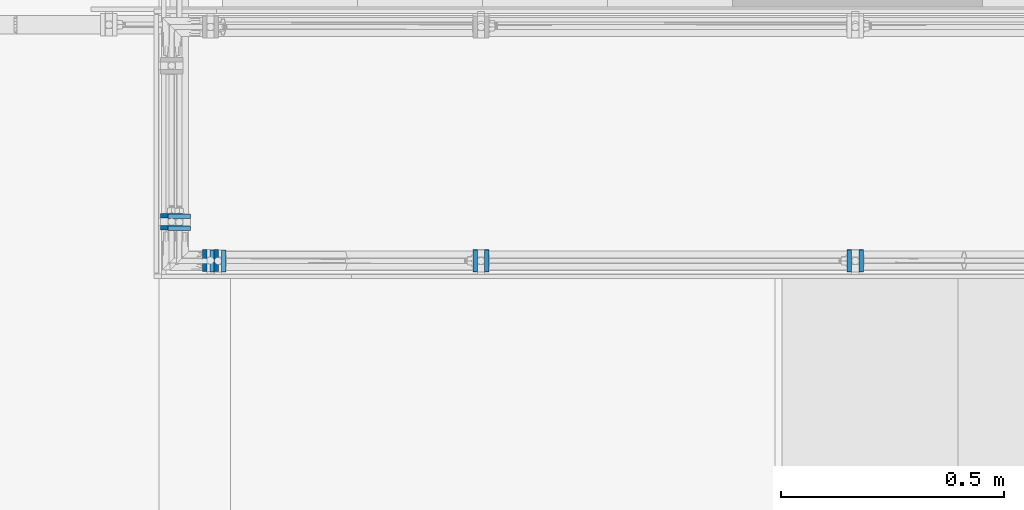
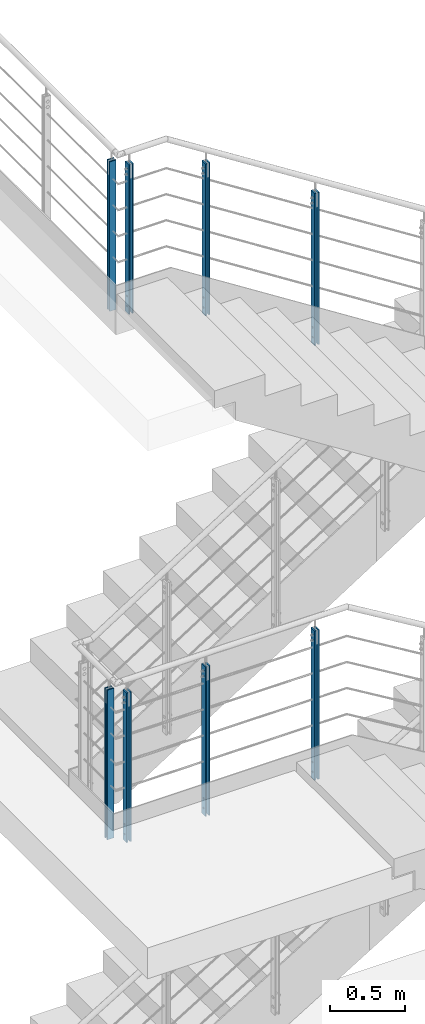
# One storey, part 1 of 98: 16 columns, 32 openings.
"""IFC2X3 building model written with IfcOpenShell, lengths in millimetres."""

from ifc_helpers import new_model, entity, si_unit, converted_unit, frame, frame_2d, origin, origin_with_axes, origin_2d, place, context, project, spatial, rectangle, circle, extrude, material, element, save


model = new_model("IFC2X3")

# Units and contexts
model_context = context("Model", 3, precision=1e-09, world=origin_with_axes())
ifc_project = project(units=[si_unit("LENGTHUNIT", "METRE", prefix="MILLI"), si_unit("AREAUNIT", "SQUARE_METRE"), si_unit("VOLUMEUNIT", "CUBIC_METRE"), converted_unit("PLANEANGLEUNIT", "DEGREE", entity("IfcPlaneAngleMeasure", 0.01745329), si_unit("PLANEANGLEUNIT", "RADIAN"), dimensions=[0, 0, 0, 0, 0, 0, 0])], contexts=[model_context])

# Site, building, storey
site_placement = place(None, origin_with_axes())
site = spatial("IfcSite", under=ifc_project, at=site_placement, Name="Maybachstra?e 2, 71563 Affalterbach", CompositionType="ELEMENT")
building_placement = place(site_placement, origin_with_axes())
building = spatial("IfcBuilding", under=site, at=building_placement, Name="Struktur 1", CompositionType="ELEMENT")
storey_placement = place(building_placement, origin_with_axes())
storey = spatial("IfcBuildingStorey", under=building, at=storey_placement, Name="Default Storey", CompositionType="ELEMENT", Elevation=0.0)

# Column, openings
ifc_material = material(Name="S235JR")
column_1_placement = place(None, frame((8001.779157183, -570.0, 8483.11981424), z_axis=(0.0, 0.0, 1.0), x_axis=(-1.0, 0.0, 0.0)))
column_1 = element("IfcColumn", 1, at=column_1_placement, inside=storey, material=ifc_material, Name="-", ObjectType="-", context=model_context, shape_type="SweptSolid", body=[
    extrude(rectangle(XDim=10.0, YDim=50.0, at=origin_2d()), origin(), (0.0, 0.0, -1.0), 1237.6),
])
opening_1_placement = place(column_1_placement, frame((5.5, 0.0, -1142.6), z_axis=(-1.0, 0.0, 0.0), x_axis=(0.0, -1.0, 0.0)))
element("IfcOpeningElement", 2, at=opening_1_placement, cuts=column_1, ObjectType="Opening", context=model_context, shape_type="SweptSolid", body=[
    extrude(circle(Radius=7.001, at=frame_2d((0.0, 40.0), x_axis=(1.0, 0.0))), origin(), (0.0, 0.0, 1.0), 11.0),
])
opening_2_placement = place(column_1_placement, frame((5.5, 0.0, -1142.6), z_axis=(-1.0, 0.0, 0.0), x_axis=(0.0, -1.0, 0.0)))
element("IfcOpeningElement", 3, at=opening_2_placement, cuts=column_1, ObjectType="Opening", context=model_context, shape_type="SweptSolid", body=[
    extrude(circle(Radius=7.001, at=frame_2d((0.0, -40.0), x_axis=(1.0, 0.0))), origin(), (0.0, 0.0, 1.0), 11.0),
])
opening_3_placement = place(column_1_placement, frame((5.5, 0.0, -67.0), z_axis=(-1.0, 0.0, 0.0), x_axis=(0.0, -1.0, 0.0)))
element("IfcOpeningElement", 4, at=opening_3_placement, cuts=column_1, ObjectType="Opening", context=model_context, shape_type="SweptSolid", body=[
    extrude(circle(Radius=7.001, at=frame_2d((0.0, 22.0), x_axis=(1.0, 0.0))), origin(), (0.0, 0.0, 1.0), 11.0),
])
opening_4_placement = place(column_1_placement, frame((5.5, 0.0, -67.0), z_axis=(-1.0, 0.0, 0.0), x_axis=(0.0, -1.0, 0.0)))
element("IfcOpeningElement", 5, at=opening_4_placement, cuts=column_1, ObjectType="Opening", context=model_context, shape_type="SweptSolid", body=[
    extrude(circle(Radius=7.001, at=frame_2d((0.0, -22.0), x_axis=(1.0, 0.0))), origin(), (0.0, 0.0, 1.0), 11.0),
])

# Column
column_2_placement = place(None, frame((8028.279157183, -570.0, 8483.11981424), z_axis=(0.0, 0.0, 1.0), x_axis=(-1.0, 0.0, 0.0)))
element("IfcColumn", 6, at=column_2_placement, inside=storey, material=ifc_material, Name="Gel?nder", ObjectType="Gel?nder", context=model_context, shape_type="SweptSolid", body=[
    extrude(rectangle(XDim=10.0, YDim=50.0, at=origin_2d()), origin(), (0.0, 0.0, -1.0), 1237.6),
])

# Column, openings
column_3_placement = place(None, frame((8841.779157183, -569.0, 4387.6), z_axis=(0.0, 0.0, 1.0), x_axis=(-1.0, 0.0, 0.0)))
column_3 = element("IfcColumn", 7, at=column_3_placement, inside=storey, material=ifc_material, Name="-", ObjectType="-", context=model_context, shape_type="SweptSolid", body=[
    extrude(rectangle(XDim=10.0, YDim=50.0, at=origin_2d()), origin(), (0.0, 0.0, -1.0), 1217.6),
])
opening_5_placement = place(column_3_placement, frame((5.5, 0.0, -1122.6), z_axis=(-1.0, 0.0, 0.0), x_axis=(0.0, -1.0, 0.0)))
element("IfcOpeningElement", 8, at=opening_5_placement, cuts=column_3, ObjectType="Opening", context=model_context, shape_type="SweptSolid", body=[
    extrude(circle(Radius=7.001, at=frame_2d((0.0, 40.0), x_axis=(1.0, 0.0))), origin(), (0.0, 0.0, 1.0), 11.0),
])
opening_6_placement = place(column_3_placement, frame((5.5, 0.0, -1122.6), z_axis=(-1.0, 0.0, 0.0), x_axis=(0.0, -1.0, 0.0)))
element("IfcOpeningElement", 9, at=opening_6_placement, cuts=column_3, ObjectType="Opening", context=model_context, shape_type="SweptSolid", body=[
    extrude(circle(Radius=7.001, at=frame_2d((0.0, -40.0), x_axis=(1.0, 0.0))), origin(), (0.0, 0.0, 1.0), 11.0),
])
opening_7_placement = place(column_3_placement, frame((5.5, 0.0, -67.0), z_axis=(-1.0, 0.0, 0.0), x_axis=(0.0, -1.0, 0.0)))
element("IfcOpeningElement", 10, at=opening_7_placement, cuts=column_3, ObjectType="Opening", context=model_context, shape_type="SweptSolid", body=[
    extrude(circle(Radius=7.001, at=frame_2d((0.0, 22.0), x_axis=(1.0, 0.0))), origin(), (0.0, 0.0, 1.0), 11.0),
])
opening_8_placement = place(column_3_placement, frame((5.5, 0.0, -67.0), z_axis=(-1.0, 0.0, 0.0), x_axis=(0.0, -1.0, 0.0)))
element("IfcOpeningElement", 11, at=opening_8_placement, cuts=column_3, ObjectType="Opening", context=model_context, shape_type="SweptSolid", body=[
    extrude(circle(Radius=7.001, at=frame_2d((0.0, -22.0), x_axis=(1.0, 0.0))), origin(), (0.0, 0.0, 1.0), 11.0),
])

# Columns
for number, where, z_axis, x_axis in (
    (12, (8868.279157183, -569.0, 4387.6), (0.0, 0.0, 1.0), (-1.0, 0.0, 0.0)),
    (13, (8028.279157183, -569.0, 4387.6), (0.0, 0.0, 1.0), (-1.0, 0.0, 0.0)),
):
    element("IfcColumn", number, at=place(None, frame(where, z_axis=z_axis, x_axis=x_axis)), inside=storey, material=ifc_material, Name="Gel?nder", ObjectType="Gel?nder", context=model_context, shape_type="SweptSolid", body=[
        extrude(rectangle(XDim=10.0, YDim=50.0, at=origin_2d()), origin(), (0.0, 0.0, -1.0), 1217.6),
    ])

# Column, openings
column_4_placement = place(None, frame((8001.779157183, -569.0, 4387.6), z_axis=(0.0, 0.0, 1.0), x_axis=(-1.0, 0.0, 0.0)))
column_4 = element("IfcColumn", 14, at=column_4_placement, inside=storey, material=ifc_material, Name="-", ObjectType="-", context=model_context, shape_type="SweptSolid", body=[
    extrude(rectangle(XDim=10.0, YDim=50.0, at=origin_2d()), origin(), (0.0, 0.0, -1.0), 1217.6),
])
opening_9_placement = place(column_4_placement, frame((5.5, 0.0, -1122.6), z_axis=(-1.0, 0.0, 0.0), x_axis=(0.0, -1.0, 0.0)))
element("IfcOpeningElement", 15, at=opening_9_placement, cuts=column_4, ObjectType="Opening", context=model_context, shape_type="SweptSolid", body=[
    extrude(circle(Radius=7.001, at=frame_2d((0.0, 40.0), x_axis=(1.0, 0.0))), origin(), (0.0, 0.0, 1.0), 11.0),
])
opening_10_placement = place(column_4_placement, frame((5.5, 0.0, -1122.6), z_axis=(-1.0, 0.0, 0.0), x_axis=(0.0, -1.0, 0.0)))
element("IfcOpeningElement", 16, at=opening_10_placement, cuts=column_4, ObjectType="Opening", context=model_context, shape_type="SweptSolid", body=[
    extrude(circle(Radius=7.001, at=frame_2d((0.0, -40.0), x_axis=(1.0, 0.0))), origin(), (0.0, 0.0, 1.0), 11.0),
])
opening_11_placement = place(column_4_placement, frame((5.5, 0.0, -67.0), z_axis=(-1.0, 0.0, 0.0), x_axis=(0.0, -1.0, 0.0)))
element("IfcOpeningElement", 17, at=opening_11_placement, cuts=column_4, ObjectType="Opening", context=model_context, shape_type="SweptSolid", body=[
    extrude(circle(Radius=7.001, at=frame_2d((0.0, 22.0), x_axis=(1.0, 0.0))), origin(), (0.0, 0.0, 1.0), 11.0),
])
opening_12_placement = place(column_4_placement, frame((5.5, 0.0, -67.0), z_axis=(-1.0, 0.0, 0.0), x_axis=(0.0, -1.0, 0.0)))
element("IfcOpeningElement", 18, at=opening_12_placement, cuts=column_4, ObjectType="Opening", context=model_context, shape_type="SweptSolid", body=[
    extrude(circle(Radius=7.001, at=frame_2d((0.0, -22.0), x_axis=(1.0, 0.0))), origin(), (0.0, 0.0, 1.0), 11.0),
])

# Column
column_5_placement = place(None, frame((7421.279157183, -569.0, 4387.6), z_axis=(0.0, 0.0, 1.0), x_axis=(-1.0, 0.0, 0.0)))
element("IfcColumn", 19, at=column_5_placement, inside=storey, material=ifc_material, Name="Gel?nder", ObjectType="Gel?nder", context=model_context, shape_type="SweptSolid", body=[
    extrude(rectangle(XDim=10.0, YDim=50.0, at=origin_2d()), origin(), (0.0, 0.0, -1.0), 1217.6),
])

# Column, openings
column_6_placement = place(None, frame((7394.779157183, -569.0, 4387.6), z_axis=(0.0, 0.0, 1.0), x_axis=(-1.0, 0.0, 0.0)))
column_6 = element("IfcColumn", 20, at=column_6_placement, inside=storey, material=ifc_material, Name="-", ObjectType="-", context=model_context, shape_type="SweptSolid", body=[
    extrude(rectangle(XDim=10.0, YDim=50.0, at=origin_2d()), origin(), (0.0, 0.0, -1.0), 1217.6),
])
opening_13_placement = place(column_6_placement, frame((5.5, 0.0, -1122.6), z_axis=(-1.0, 0.0, 0.0), x_axis=(0.0, -1.0, 0.0)))
element("IfcOpeningElement", 21, at=opening_13_placement, cuts=column_6, ObjectType="Opening", context=model_context, shape_type="SweptSolid", body=[
    extrude(circle(Radius=7.001, at=frame_2d((0.0, 40.0), x_axis=(1.0, 0.0))), origin(), (0.0, 0.0, 1.0), 11.0),
])
opening_14_placement = place(column_6_placement, frame((5.5, 0.0, -1122.6), z_axis=(-1.0, 0.0, 0.0), x_axis=(0.0, -1.0, 0.0)))
element("IfcOpeningElement", 22, at=opening_14_placement, cuts=column_6, ObjectType="Opening", context=model_context, shape_type="SweptSolid", body=[
    extrude(circle(Radius=7.001, at=frame_2d((0.0, -40.0), x_axis=(1.0, 0.0))), origin(), (0.0, 0.0, 1.0), 11.0),
])
opening_15_placement = place(column_6_placement, frame((5.5, 0.0, -67.0), z_axis=(-1.0, 0.0, 0.0), x_axis=(0.0, -1.0, 0.0)))
element("IfcOpeningElement", 23, at=opening_15_placement, cuts=column_6, ObjectType="Opening", context=model_context, shape_type="SweptSolid", body=[
    extrude(circle(Radius=7.001, at=frame_2d((0.0, 22.0), x_axis=(1.0, 0.0))), origin(), (0.0, 0.0, 1.0), 11.0),
])
opening_16_placement = place(column_6_placement, frame((5.5, 0.0, -67.0), z_axis=(-1.0, 0.0, 0.0), x_axis=(0.0, -1.0, 0.0)))
element("IfcOpeningElement", 24, at=opening_16_placement, cuts=column_6, ObjectType="Opening", context=model_context, shape_type="SweptSolid", body=[
    extrude(circle(Radius=7.001, at=frame_2d((0.0, -22.0), x_axis=(1.0, 0.0))), origin(), (0.0, 0.0, 1.0), 11.0),
])

column_7_placement = place(None, frame((8841.779157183, -570.0, 7947.277167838), z_axis=(0.0, 0.0, 1.0), x_axis=(-1.0, 0.0, 0.0)))
column_7 = element("IfcColumn", 25, at=column_7_placement, inside=storey, material=ifc_material, Name="-", ObjectType="-", context=model_context, shape_type="SweptSolid", body=[
    extrude(rectangle(XDim=10.0, YDim=50.0, at=origin_2d()), origin(), (0.0, 0.0, -1.0), 1237.6),
])
opening_17_placement = place(column_7_placement, frame((5.5, 0.0, -1142.6), z_axis=(-1.0, 0.0, 0.0), x_axis=(0.0, -1.0, 0.0)))
element("IfcOpeningElement", 26, at=opening_17_placement, cuts=column_7, ObjectType="Opening", context=model_context, shape_type="SweptSolid", body=[
    extrude(circle(Radius=7.001, at=frame_2d((0.0, 40.0), x_axis=(1.0, 0.0))), origin(), (0.0, 0.0, 1.0), 11.0),
])
opening_18_placement = place(column_7_placement, frame((5.5, 0.0, -1142.6), z_axis=(-1.0, 0.0, 0.0), x_axis=(0.0, -1.0, 0.0)))
element("IfcOpeningElement", 27, at=opening_18_placement, cuts=column_7, ObjectType="Opening", context=model_context, shape_type="SweptSolid", body=[
    extrude(circle(Radius=7.001, at=frame_2d((0.0, -40.0), x_axis=(1.0, 0.0))), origin(), (0.0, 0.0, 1.0), 11.0),
])
opening_19_placement = place(column_7_placement, frame((5.5, 0.0, -67.0), z_axis=(-1.0, 0.0, 0.0), x_axis=(0.0, -1.0, 0.0)))
element("IfcOpeningElement", 28, at=opening_19_placement, cuts=column_7, ObjectType="Opening", context=model_context, shape_type="SweptSolid", body=[
    extrude(circle(Radius=7.001, at=frame_2d((0.0, 22.0), x_axis=(1.0, 0.0))), origin(), (0.0, 0.0, 1.0), 11.0),
])
opening_20_placement = place(column_7_placement, frame((5.5, 0.0, -67.0), z_axis=(-1.0, 0.0, 0.0), x_axis=(0.0, -1.0, 0.0)))
element("IfcOpeningElement", 29, at=opening_20_placement, cuts=column_7, ObjectType="Opening", context=model_context, shape_type="SweptSolid", body=[
    extrude(circle(Radius=7.001, at=frame_2d((0.0, -22.0), x_axis=(1.0, 0.0))), origin(), (0.0, 0.0, 1.0), 11.0),
])

# Columns
column_8_placement = place(None, frame((8868.279157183, -570.0, 7947.277167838), z_axis=(0.0, 0.0, 1.0), x_axis=(-1.0, 0.0, 0.0)))
element("IfcColumn", 30, at=column_8_placement, inside=storey, material=ifc_material, Name="Gel?nder", ObjectType="Gel?nder", context=model_context, shape_type="SweptSolid", body=[
    extrude(rectangle(XDim=10.0, YDim=50.0, at=origin_2d()), origin(), (0.0, 0.0, -1.0), 1237.6),
])
column_9_placement = place(None, frame((7438.279157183, -570.0, 8682.599999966), z_axis=(0.0, 0.0, 1.0), x_axis=(-1.0, 0.0, 0.0)))
element("IfcColumn", 31, at=column_9_placement, inside=storey, material=ifc_material, Name="Gel?nder", ObjectType="Gel?nder", context=model_context, shape_type="SweptSolid", body=[
    extrude(rectangle(XDim=10.0, YDim=50.0, at=origin_2d()), origin(), (0.0, 0.0, -1.0), 1217.6),
])

# Column, openings
column_10_placement = place(None, frame((7411.779157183, -570.0, 8682.599999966), z_axis=(0.0, 0.0, 1.0), x_axis=(-1.0, 0.0, 0.0)))
column_10 = element("IfcColumn", 32, at=column_10_placement, inside=storey, material=ifc_material, Name="-", ObjectType="-", context=model_context, shape_type="SweptSolid", body=[
    extrude(rectangle(XDim=10.0, YDim=50.0, at=origin_2d()), origin(), (0.0, 0.0, -1.0), 1217.6),
])
opening_21_placement = place(column_10_placement, frame((5.5, 0.0, -1122.6), z_axis=(-1.0, 0.0, 0.0), x_axis=(0.0, -1.0, 0.0)))
element("IfcOpeningElement", 33, at=opening_21_placement, cuts=column_10, ObjectType="Opening", context=model_context, shape_type="SweptSolid", body=[
    extrude(circle(Radius=7.001, at=frame_2d((0.0, 40.0), x_axis=(1.0, 0.0))), origin(), (0.0, 0.0, 1.0), 11.0),
])
opening_22_placement = place(column_10_placement, frame((5.5, 0.0, -1122.6), z_axis=(-1.0, 0.0, 0.0), x_axis=(0.0, -1.0, 0.0)))
element("IfcOpeningElement", 34, at=opening_22_placement, cuts=column_10, ObjectType="Opening", context=model_context, shape_type="SweptSolid", body=[
    extrude(circle(Radius=7.001, at=frame_2d((0.0, -40.0), x_axis=(1.0, 0.0))), origin(), (0.0, 0.0, 1.0), 11.0),
])
opening_23_placement = place(column_10_placement, frame((5.5, 0.0, -67.0), z_axis=(-1.0, 0.0, 0.0), x_axis=(0.0, -1.0, 0.0)))
element("IfcOpeningElement", 35, at=opening_23_placement, cuts=column_10, ObjectType="Opening", context=model_context, shape_type="SweptSolid", body=[
    extrude(circle(Radius=7.001, at=frame_2d((0.0, 22.0), x_axis=(1.0, 0.0))), origin(), (0.0, 0.0, 1.0), 11.0),
])
opening_24_placement = place(column_10_placement, frame((5.5, 0.0, -67.0), z_axis=(-1.0, 0.0, 0.0), x_axis=(0.0, -1.0, 0.0)))
element("IfcOpeningElement", 36, at=opening_24_placement, cuts=column_10, ObjectType="Opening", context=model_context, shape_type="SweptSolid", body=[
    extrude(circle(Radius=7.001, at=frame_2d((0.0, -22.0), x_axis=(1.0, 0.0))), origin(), (0.0, 0.0, 1.0), 11.0),
])

# Column
column_11_placement = place(None, frame((7321.028157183, -495.25, 4387.6), z_axis=(0.0, 0.0, 1.0), x_axis=(0.0, 1.0, 0.0)))
element("IfcColumn", 37, at=column_11_placement, inside=storey, material=ifc_material, Name="Gel?nder", ObjectType="Gel?nder", context=model_context, shape_type="SweptSolid", body=[
    extrude(rectangle(XDim=10.0, YDim=50.0, at=origin_2d()), origin(), (0.0, 0.0, -1.0), 1217.6),
])

# Column, openings
column_12_placement = place(None, frame((7321.028157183, -468.75, 4387.6), z_axis=(0.0, 0.0, 1.0), x_axis=(0.0, 1.0, 0.0)))
column_12 = element("IfcColumn", 38, at=column_12_placement, inside=storey, material=ifc_material, Name="-", ObjectType="-", context=model_context, shape_type="SweptSolid", body=[
    extrude(rectangle(XDim=10.0, YDim=50.0, at=origin_2d()), origin(), (0.0, 0.0, -1.0), 1217.6),
])
opening_25_placement = place(column_12_placement, frame((5.5, 0.0, -1122.6), z_axis=(-1.0, 0.0, 0.0), x_axis=(0.0, -1.0, 0.0)))
element("IfcOpeningElement", 39, at=opening_25_placement, cuts=column_12, ObjectType="Opening", context=model_context, shape_type="SweptSolid", body=[
    extrude(circle(Radius=7.001, at=frame_2d((0.0, 40.0), x_axis=(1.0, 0.0))), origin(), (0.0, 0.0, 1.0), 11.0),
])
opening_26_placement = place(column_12_placement, frame((5.5, 0.0, -1122.6), z_axis=(-1.0, 0.0, 0.0), x_axis=(0.0, -1.0, 0.0)))
element("IfcOpeningElement", 40, at=opening_26_placement, cuts=column_12, ObjectType="Opening", context=model_context, shape_type="SweptSolid", body=[
    extrude(circle(Radius=7.001, at=frame_2d((0.0, -40.0), x_axis=(1.0, 0.0))), origin(), (0.0, 0.0, 1.0), 11.0),
])
opening_27_placement = place(column_12_placement, frame((5.5, 0.0, -67.0), z_axis=(-1.0, 0.0, 0.0), x_axis=(0.0, -1.0, 0.0)))
element("IfcOpeningElement", 41, at=opening_27_placement, cuts=column_12, ObjectType="Opening", context=model_context, shape_type="SweptSolid", body=[
    extrude(circle(Radius=7.001, at=frame_2d((0.0, 22.0), x_axis=(1.0, 0.0))), origin(), (0.0, 0.0, 1.0), 11.0),
])
opening_28_placement = place(column_12_placement, frame((5.5, 0.0, -67.0), z_axis=(-1.0, 0.0, 0.0), x_axis=(0.0, -1.0, 0.0)))
element("IfcOpeningElement", 42, at=opening_28_placement, cuts=column_12, ObjectType="Opening", context=model_context, shape_type="SweptSolid", body=[
    extrude(circle(Radius=7.001, at=frame_2d((0.0, -22.0), x_axis=(1.0, 0.0))), origin(), (0.0, 0.0, 1.0), 11.0),
])

# Column
column_13_placement = place(None, frame((7338.029157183, -496.25, 8682.599999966), z_axis=(0.0, 0.0, 1.0), x_axis=(0.0, 1.0, 0.0)))
element("IfcColumn", 43, at=column_13_placement, inside=storey, material=ifc_material, Name="Gel?nder", ObjectType="Gel?nder", context=model_context, shape_type="SweptSolid", body=[
    extrude(rectangle(XDim=10.0, YDim=50.0, at=origin_2d()), origin(), (0.0, 0.0, -1.0), 1217.6),
])

# Column, openings
column_14_placement = place(None, frame((7338.029157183, -469.75, 8682.599999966), z_axis=(0.0, 0.0, 1.0), x_axis=(0.0, 1.0, 0.0)))
column_14 = element("IfcColumn", 44, at=column_14_placement, inside=storey, material=ifc_material, Name="-", ObjectType="-", context=model_context, shape_type="SweptSolid", body=[
    extrude(rectangle(XDim=10.0, YDim=50.0, at=origin_2d()), origin(), (0.0, 0.0, -1.0), 1217.6),
])
opening_29_placement = place(column_14_placement, frame((5.5, 0.0, -1122.6), z_axis=(-1.0, 0.0, 0.0), x_axis=(0.0, -1.0, 0.0)))
element("IfcOpeningElement", 45, at=opening_29_placement, cuts=column_14, ObjectType="Opening", context=model_context, shape_type="SweptSolid", body=[
    extrude(circle(Radius=7.001, at=frame_2d((0.0, 40.0), x_axis=(1.0, 0.0))), origin(), (0.0, 0.0, 1.0), 11.0),
])
opening_30_placement = place(column_14_placement, frame((5.5, 0.0, -1122.6), z_axis=(-1.0, 0.0, 0.0), x_axis=(0.0, -1.0, 0.0)))
element("IfcOpeningElement", 46, at=opening_30_placement, cuts=column_14, ObjectType="Opening", context=model_context, shape_type="SweptSolid", body=[
    extrude(circle(Radius=7.001, at=frame_2d((0.0, -40.0), x_axis=(1.0, 0.0))), origin(), (0.0, 0.0, 1.0), 11.0),
])
opening_31_placement = place(column_14_placement, frame((5.5, 0.0, -67.0), z_axis=(-1.0, 0.0, 0.0), x_axis=(0.0, -1.0, 0.0)))
element("IfcOpeningElement", 47, at=opening_31_placement, cuts=column_14, ObjectType="Opening", context=model_context, shape_type="SweptSolid", body=[
    extrude(circle(Radius=7.001, at=frame_2d((0.0, 22.0), x_axis=(1.0, 0.0))), origin(), (0.0, 0.0, 1.0), 11.0),
])
opening_32_placement = place(column_14_placement, frame((5.5, 0.0, -67.0), z_axis=(-1.0, 0.0, 0.0), x_axis=(0.0, -1.0, 0.0)))
element("IfcOpeningElement", 48, at=opening_32_placement, cuts=column_14, ObjectType="Opening", context=model_context, shape_type="SweptSolid", body=[
    extrude(circle(Radius=7.001, at=frame_2d((0.0, -22.0), x_axis=(1.0, 0.0))), origin(), (0.0, 0.0, 1.0), 11.0),
])

save(model, "model.ifc")
